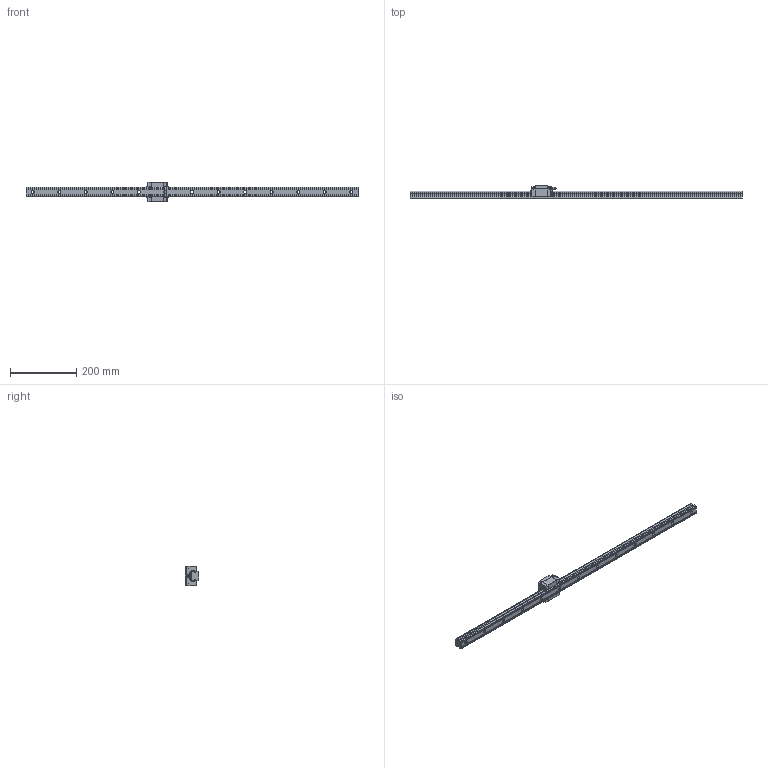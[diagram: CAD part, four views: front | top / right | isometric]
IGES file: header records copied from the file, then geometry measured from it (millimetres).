
Start section: SolidWorks IGES file using analytic representation for surfaces
Global section: file name: C:\Users\tsuch\OneDrive\デスクトップ\EG30関連修正(3D)\EGS30S.IGS; native system: SolidWorks 2019; preprocessor: SolidWorks 2019; author: tsuch; date: 210705.155019; units: millimetre
Bounding box: 1000 x 42 x 60 mm (x, y, z)
Surface area: 144186.6 mm2 (no closed solid volume)
Topology: 0 solids, 0 shells, 533 faces, 6091 edges, 6087 vertices
Faces by surface type: bspline 345, revolution 188
